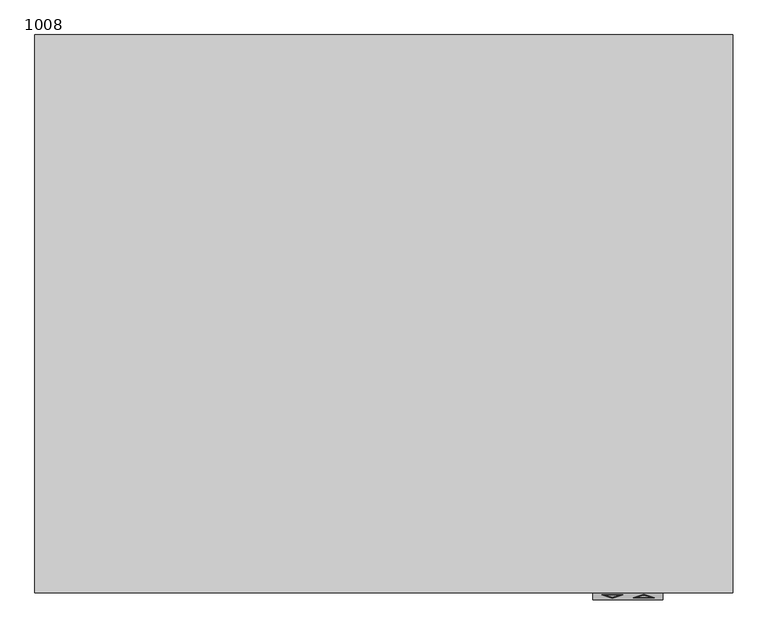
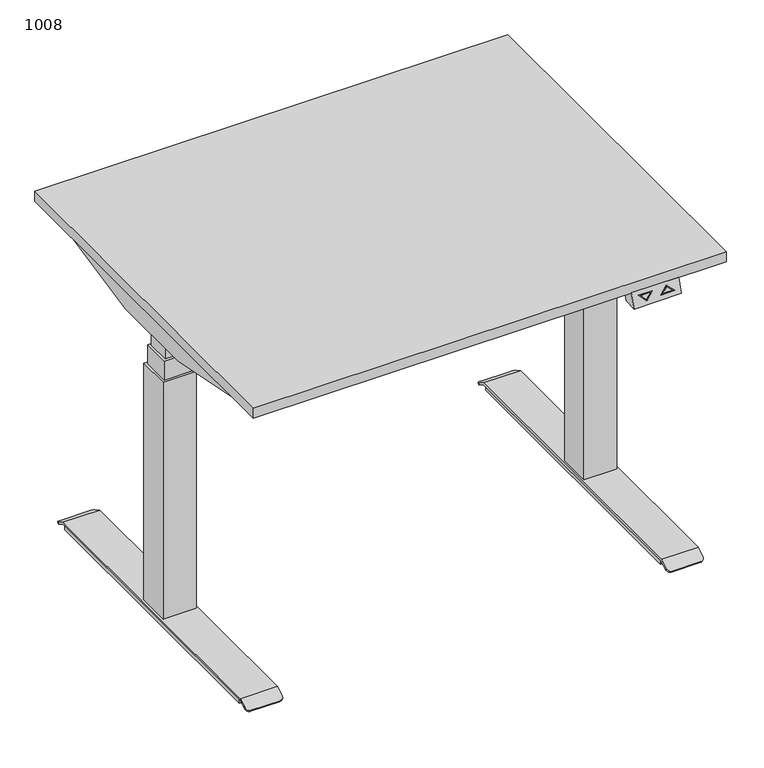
"""IFC4 building model written with IfcOpenShell, lengths in millimetres: furniture geometry, PINTA EQC : 1008."""

from ifc_helpers import new_model, si_unit, point, frame, frame_2d, origin, origin_with_axes, place, context, project, spatial, polyline, circle_curve, trimmed, segment, composite_curve, outline, extrude, faceted_brep, source, transform, mapped, element, save
from ifc_brep_helpers import plane_surface, cylinder_surface, advanced_brep


def furniture_1008_3f757aca(model_context):
    return source(origin(), model_context, "Body", "SolidModel", [
        faceted_brep([(300.0, -810.0, 668.0), (300.0, -780.0, 668.0), (400.0, -780.0, 668.0), (400.0, -810.0, 668.0), (300.0, -800.0, 698.0), (400.0, -800.0, 698.0), (400.0, -770.0, 698.0), (300.0, -770.0, 698.0), (312.5, -802.6491106, 690.0526681), (342.5, -802.6491106, 690.0526681), (327.5, -807.3925271, 675.8224186), (387.5, -806.9174824, 677.2475529), (357.5, -806.9174824, 677.2475529), (372.5, -802.1740659, 691.4778023), (327.5, -806.4980999, 678.5057002), (337.6715729, -803.2815662, 688.1553015), (317.3284271, -803.2815662, 688.1553015), (382.6715729, -806.2850268, 679.1449195), (372.5, -803.0684931, 688.7945208), (362.3284271, -806.2850268, 679.1449195), (342.5, -801.7004273, 689.7364403), (312.5, -801.7004273, 689.7364403), (327.5, -806.4438438, 675.5061908), (337.6715729, -802.3328829, 687.8390737), (327.5, -805.5494166, 678.1894724), (317.3284271, -802.3328829, 687.8390737), (357.5, -805.9687991, 676.9313251), (387.5, -805.9687991, 676.9313251), (372.5, -801.2253826, 691.1615746), (372.5, -802.1198098, 688.478293), (382.6715729, -805.3363436, 678.8286917), (362.3284271, -805.3363436, 678.8286917)], [[[0, 1, 2, 3]], [[4, 5, 6, 7]], [[1, 0, 4, 7]], [[3, 2, 6, 5]], [[0, 3, 5, 4], [8, 9, 10], [11, 12, 13]], [[14, 15, 16]], [[17, 18, 19]], [[2, 1, 7, 6]], [[20, 21, 22], [23, 24, 25]], [[26, 27, 28], [29, 30, 31]], [[21, 20, 9, 8]], [[22, 21, 8, 10]], [[20, 22, 10, 9]], [[27, 26, 12, 11]], [[28, 27, 11, 13]], [[26, 28, 13, 12]], [[24, 23, 15, 14]], [[25, 24, 14, 16]], [[23, 25, 16, 15]], [[30, 29, 18, 17]], [[31, 30, 17, 19]], [[29, 31, 19, 18]]]),
        extrude(outline(polyline([(-480.0, -319.7732113), (480.0, -319.7733158), (480.0, -339.7733158), (-480.0, -339.7732113), (-480.0, -319.7732113)])), frame((0.0, 0.0, 658.0), z_axis=(0.0, 0.0, 1.0), x_axis=(1.0, 0.0, 0.0)), (0.0, 0.0, 1.0), 40.0),
        extrude(outline(polyline([(-480.0, -459.7732114), (480.0, -459.7733158), (480.0, -479.7733158), (-480.0, -479.7732114), (-480.0, -459.7732114)])), frame((0.0, 0.0, 658.0), z_axis=(0.0, 0.0, 1.0), x_axis=(1.0, 0.0, 0.0)), (0.0, 0.0, 1.0), 40.0),
        extrude(outline(polyline([(-500.0, -800.0), (-500.0, 0.0), (500.0, 0.0), (500.0, -800.0), (-500.0, -800.0)])), frame((0.0, 0.0, 698.0), z_axis=(0.0, 0.0, 1.0), x_axis=(1.0, 0.0, 0.0)), (0.0, 0.0, 1.0), 22.0),
        advanced_brep(
        [(406.9772339, -720.0, 6.0), (406.9772339, -720.0, 16.0), (406.9772339, -80.0, 16.0), (406.9772339, -80.0, 6.0), (483.0227661, -80.0, 16.0), (483.0227661, -80.0, 6.0), (483.0227661, -720.0, 16.0), (483.0227661, -720.0, 6.0), (406.0, -75.0, 20.0), (406.0, -56.9800481, 9.908827), (406.0, -58.9344616, 6.4188029), (406.0, -76.0437422, 16.0), (406.0, -723.9562578, 16.0), (406.0, -741.0655384, 6.4188029), (406.0, -743.0199519, 9.908827), (406.0, -725.0, 20.0), (484.0, -76.0437422, 16.0), (484.0, -58.9344616, 6.4188029), (484.0, -56.9800481, 9.908827), (484.0, -75.0, 20.0), (484.0, -725.0, 20.0), (484.0, -743.0199519, 9.908827), (484.0, -741.0655384, 6.4188029), (484.0, -723.9562578, 16.0), (414.0, -750.0, 6.0), (476.0, -750.0, 6.0), (414.0, -748.0455865, 2.5099759), (476.0, -748.0455865, 2.5099759), (414.0, -51.9544135, 2.5099759), (476.0, -51.9544135, 2.5099759), (414.0, -50.0, 6.0), (476.0, -50.0, 6.0)],
        [
            (0, 1),
            (1, 2),
            (2, 3),
            (3, 0),
            (2, 4),
            (4, 5),
            (5, 3),
            (4, 6),
            (6, 7),
            (7, 5),
            (6, 1),
            (0, 7),
            (8, 9),
            (9, 10),
            (10, 11),
            (11, 12),
            (12, 13),
            (13, 14),
            (14, 15),
            (15, 8),
            (16, 17),
            (17, 18),
            (18, 19),
            (19, 20),
            (20, 21),
            (21, 22),
            (22, 23),
            (23, 16),
            (15, 20),
            (19, 8),
            (11, 16),
            (23, 12),
            (14, 24, circle_curve(frame((414.0, -743.0199519, 9.908827), z_axis=(0.0, -0.4886033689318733, 0.8725060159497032), x_axis=(0.0, 0.8725060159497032, 0.4886033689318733)), 8.0)),
            (24, 25),
            (25, 21, circle_curve(frame((476.0, -743.0199519, 9.908827), z_axis=(0.0, -0.4886033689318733, 0.8725060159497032), x_axis=(0.0, 0.8725060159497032, 0.4886033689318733)), 8.0)),
            (24, 26),
            (26, 27),
            (27, 25),
            (22, 27, circle_curve(frame((476.0, -741.0655384, 6.4188029), z_axis=(0.0, 0.4886033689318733, -0.8725060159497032), x_axis=(0.0, 0.8725060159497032, 0.4886033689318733)), 8.0)),
            (26, 13, circle_curve(frame((414.0, -741.0655384, 6.4188029), z_axis=(0.0, 0.4886033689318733, -0.8725060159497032), x_axis=(0.0, 0.8725060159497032, 0.4886033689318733)), 8.0)),
            (10, 28, circle_curve(frame((414.0, -58.9344616, 6.4188029), z_axis=(0.0, -0.4886033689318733, -0.8725060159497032), x_axis=(0.0, -0.8725060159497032, 0.4886033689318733)), 8.0)),
            (28, 29),
            (29, 17, circle_curve(frame((476.0, -58.9344616, 6.4188029), z_axis=(0.0, -0.4886033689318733, -0.8725060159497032), x_axis=(0.0, -0.8725060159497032, 0.4886033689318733)), 8.0)),
            (28, 30),
            (30, 31),
            (31, 29),
            (18, 31, circle_curve(frame((476.0, -56.9800481, 9.908827), z_axis=(0.0, 0.4886033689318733, 0.8725060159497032), x_axis=(0.0, -0.8725060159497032, 0.4886033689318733)), 8.0)),
            (30, 9, circle_curve(frame((414.0, -56.9800481, 9.908827), z_axis=(0.0, 0.4886033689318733, 0.8725060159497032), x_axis=(0.0, -0.8725060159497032, 0.4886033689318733)), 8.0)),
        ],
        [
            plane_surface(frame((406.9772339, -720.0, 16.0), z_axis=(-1.0, 0.0, 0.0), x_axis=(0.0, 0.0, -1.0))),
            plane_surface(frame((406.9772339, -80.0, 16.0), z_axis=(0.0, 1.0, 0.0), x_axis=(0.0, 0.0, -1.0))),
            plane_surface(frame((483.0227661, -80.0, 16.0), z_axis=(1.0, 0.0, 0.0), x_axis=(0.0, 0.0, -1.0))),
            plane_surface(frame((483.0227661, -720.0, 16.0), z_axis=(0.0, -1.0, 0.0), x_axis=(0.0, 0.0, -1.0))),
            plane_surface(frame((406.9772339, -723.4188232, 6.0), z_axis=(0.0, 0.0, -1.0), x_axis=(0.0, -1.0, 0.0))),
            plane_surface(frame((406.0, -400.0, 20.0), z_axis=(-1.0, 0.0, 0.0), x_axis=(0.0, -1.0, 0.0))),
            plane_surface(frame((484.0, -400.0, 20.0), z_axis=(1.0, 0.0, 0.0), x_axis=(0.0, 1.0, 0.0))),
            plane_surface(frame((406.0, -75.0, 20.0), z_axis=(0.0, 0.0, 1.0), x_axis=(1.0, 0.0, 0.0))),
            plane_surface(frame((406.0, -723.9562578, 16.0), z_axis=(0.0, 0.0, -1.0), x_axis=(1.0, 0.0, 0.0))),
            plane_surface(frame((406.0, -725.0, 20.0), z_axis=(0.0, -0.4886033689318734, 0.8725060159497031), x_axis=(1.0, 0.0, 0.0))),
            plane_surface(frame((406.0, -750.0, 6.0), z_axis=(0.0, -0.872506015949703, -0.4886033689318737), x_axis=(1.0, 0.0, 0.0))),
            plane_surface(frame((406.0, -748.0455865, 2.5099759), z_axis=(0.0, 0.4886033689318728, -0.8725060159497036), x_axis=(1.0, 0.0, 0.0))),
            plane_surface(frame((406.0, -76.0437422, 16.0), z_axis=(0.0, -0.4886033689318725, -0.8725060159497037), x_axis=(1.0, 0.0, 0.0))),
            plane_surface(frame((406.0, -51.9544135, 2.5099759), z_axis=(0.0, 0.8725060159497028, -0.48860336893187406), x_axis=(1.0, 0.0, 0.0))),
            plane_surface(frame((406.0, -50.0, 6.0), z_axis=(0.0, 0.48860336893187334, 0.8725060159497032), x_axis=(1.0, 0.0, 0.0))),
            cylinder_surface(frame((414.0, -743.0199519, 9.908827), z_axis=(0.0, -0.4886033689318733, 0.8725060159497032), x_axis=(0.0, 0.8725060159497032, 0.4886033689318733)), 8.0),
            cylinder_surface(frame((476.0, -743.0199519, 9.908827), z_axis=(0.0, -0.4886033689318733, 0.8725060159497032), x_axis=(0.0, 0.8725060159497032, 0.4886033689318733)), 8.0),
            cylinder_surface(frame((414.0, -56.9800481, 9.908827), z_axis=(0.0, 0.4886033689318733, 0.8725060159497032), x_axis=(0.0, -0.8725060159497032, 0.4886033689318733)), 8.0),
            cylinder_surface(frame((476.0, -56.9800481, 9.908827), z_axis=(0.0, 0.4886033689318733, 0.8725060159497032), x_axis=(0.0, -0.8725060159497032, 0.4886033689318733)), 8.0),
        ],
        [
            (0, [[1, 2, 3, 4]]),
            (1, [[-3, 5, 6, 7]]),
            (2, [[-6, 8, 9, 10]]),
            (3, [[-9, 11, -1, 12]]),
            (4, [[-4, -7, -10, -12]]),
            (5, [[13, 14, 15, 16, 17, 18, 19, 20]]),
            (6, [[21, 22, 23, 24, 25, 26, 27, 28]]),
            (7, [[29, -24, 30, -20]]),
            (8, [[31, -28, 32, -16], [-11, -8, -5, -2]]),
            (9, [[-19, 33, 34, 35, -25, -29]]),
            (10, [[36, 37, 38, -34]]),
            (11, [[-27, 39, -37, 40, -17, -32]]),
            (12, [[-15, 41, 42, 43, -21, -31]]),
            (13, [[44, 45, 46, -42]]),
            (14, [[-23, 47, -45, 48, -13, -30]]),
            (15, [[-40, -36, -33, -18]]),
            (16, [[-35, -38, -39, -26]]),
            (17, [[-48, -44, -41, -14]]),
            (18, [[-43, -46, -47, -22]]),
        ],
    ),
        faceted_brep([(279.4551307, -460.0, 698.0), (462.9996948, -460.0, 698.0), (462.9996948, -700.0, 698.0), (479.4551307, -700.0, 698.0), (483.0, -700.0, 698.0), (483.0, -100.0, 698.0), (479.4551307, -100.0, 698.0), (462.9996948, -100.0, 698.0), (462.9996948, -340.0, 698.0), (279.4551307, -340.0, 698.0), (279.4551307, -460.0, 635.2327881), (279.4551307, -340.0, 635.2327881), (479.4551307, -340.0, 635.2327881), (479.4551307, -303.8252348, 635.2327881), (483.0, -303.8252348, 635.2327881), (483.0, -496.1747652, 635.2327881), (479.4551307, -496.1747652, 635.2327881), (479.4551307, -460.0, 635.2327881), (462.9996948, -340.0, 694.9093018), (479.4551307, -340.0, 694.9093018), (479.4551307, -460.0, 694.9093018), (462.9996948, -460.0, 694.9093018), (479.4551307, -700.0, 694.9093018), (462.9996948, -700.0, 694.9093018), (479.4551307, -100.0, 694.9093018), (462.9996948, -100.0, 694.9093018), (479.4551307, -101.1249222, 694.9093018), (479.4551307, -698.8750778, 694.9093018), (479.4551307, -108.5505036, 674.5076845), (479.4551307, -691.4494964, 674.5076845), (483.0, -108.5505036, 674.5076845), (483.0, -691.4494964, 674.5076845)], [[[0, 1, 2, 3, 4, 5, 6, 7, 8, 9]], [[10, 11, 12, 13, 14, 15, 16, 17]], [[9, 11, 10, 0]], [[11, 9, 8, 18, 19, 12]], [[17, 20, 21, 1, 0, 10]], [[22, 3, 2, 23]], [[24, 25, 7, 6]], [[24, 26, 19, 18, 25]], [[23, 21, 20, 27, 22]], [[2, 1, 21, 23]], [[25, 18, 8, 7]], [[13, 12, 19, 26, 28]], [[29, 27, 20, 17, 16]], [[15, 14, 30, 5, 4, 31]], [[16, 15, 31, 29]], [[22, 27, 3]], [[6, 26, 24]], [[4, 3, 27, 29, 31]], [[28, 30, 14, 13]], [[30, 28, 26, 6, 5]]]),
        extrude(outline(composite_curve([segment(trimmed(circle_curve(frame_2d((445.0, -705.0)), 25.0), [point((470.0, -705.0))], [point((420.0, -705.0))], False, "CARTESIAN"), True, "CONTINUOUS"), segment(trimmed(circle_curve(frame_2d((445.0, -705.0)), 25.0), [point((420.0, -705.0))], [point((470.0, -705.0))], False, "CARTESIAN"), True, "CONTINUOUS")], self_intersect=False)), origin_with_axes(), (0.0, 0.0, 1.0), 6.0),
        extrude(outline(composite_curve([segment(trimmed(circle_curve(frame_2d((445.0, -95.0)), 25.0), [point((470.0, -95.0))], [point((420.0, -95.0))], False, "CARTESIAN"), True, "CONTINUOUS"), segment(trimmed(circle_curve(frame_2d((445.0, -95.0)), 25.0), [point((420.0, -95.0))], [point((470.0, -95.0))], False, "CARTESIAN"), True, "CONTINUOUS")], self_intersect=False)), origin_with_axes(), (0.0, 0.0, 1.0), 6.0),
        faceted_brep([(410.0, -365.0, 550.0), (410.0, -434.9621325, 550.0), (480.0, -434.9621325, 550.0), (480.0, -365.0, 550.0), (475.0, -370.0, 550.0), (475.0, -429.9621325, 550.0), (415.0, -429.9621325, 550.0), (415.0, -370.0, 550.0), (410.0, -365.0, 20.0), (480.0, -365.0, 20.0), (480.0, -434.9621325, 20.0), (410.0, -434.9621325, 20.0), (415.0, -370.0, 592.616394), (415.0, -429.9621325, 592.616394), (475.0, -429.9621325, 592.616394), (475.0, -370.0, 592.616394), (470.0, -375.0, 592.616394), (470.0, -424.9621325, 592.616394), (420.0, -424.9621325, 592.616394), (420.0, -375.0, 592.616394), (420.0, -375.0, 635.2327881), (420.0, -424.9621325, 635.2327881), (470.0, -424.9621325, 635.2327881), (470.0, -375.0, 635.2327881)], [[[0, 1, 2, 3], [4, 5, 6, 7]], [[8, 9, 10, 11]], [[3, 9, 8, 0]], [[2, 10, 9, 3]], [[1, 11, 10, 2]], [[0, 8, 11, 1]], [[12, 13, 14, 15], [16, 17, 18, 19]], [[15, 4, 7, 12]], [[14, 5, 4, 15]], [[13, 6, 5, 14]], [[12, 7, 6, 13]], [[20, 21, 22, 23]], [[23, 16, 19, 20]], [[22, 17, 16, 23]], [[21, 18, 17, 22]], [[20, 19, 18, 21]]]),
        advanced_brep(
        [(-406.9772339, -720.0, 6.0), (-406.9772339, -80.0, 6.0), (-406.9772339, -80.0, 16.0), (-406.9772339, -720.0, 16.0), (-483.0227661, -80.0, 6.0), (-483.0227661, -80.0, 16.0), (-483.0227661, -720.0, 6.0), (-483.0227661, -720.0, 16.0), (-406.0, -75.0, 20.0), (-406.0, -725.0, 20.0), (-406.0, -743.0199519, 9.908827), (-406.0, -741.0655384, 6.4188029), (-406.0, -723.9562578, 16.0), (-406.0, -76.0437422, 16.0), (-406.0, -58.9344616, 6.4188029), (-406.0, -56.9800481, 9.908827), (-484.0, -76.0437422, 16.0), (-484.0, -723.9562578, 16.0), (-484.0, -741.0655384, 6.4188029), (-484.0, -743.0199519, 9.908827), (-484.0, -725.0, 20.0), (-484.0, -75.0, 20.0), (-484.0, -56.9800481, 9.908827), (-484.0, -58.9344616, 6.4188029), (-476.0, -750.0, 6.0), (-414.0, -750.0, 6.0), (-476.0, -748.0455865, 2.5099759), (-414.0, -748.0455865, 2.5099759), (-476.0, -51.9544135, 2.5099759), (-414.0, -51.9544135, 2.5099759), (-476.0, -50.0, 6.0), (-414.0, -50.0, 6.0)],
        [
            (0, 1),
            (1, 2),
            (2, 3),
            (3, 0),
            (1, 4),
            (4, 5),
            (5, 2),
            (4, 6),
            (6, 7),
            (7, 5),
            (6, 0),
            (3, 7),
            (8, 9),
            (9, 10),
            (10, 11),
            (11, 12),
            (12, 13),
            (13, 14),
            (14, 15),
            (15, 8),
            (16, 17),
            (17, 18),
            (18, 19),
            (19, 20),
            (20, 21),
            (21, 22),
            (22, 23),
            (23, 16),
            (8, 21),
            (20, 9),
            (12, 17),
            (16, 13),
            (19, 24, circle_curve(frame((-476.0, -743.0199519, 9.908827), z_axis=(0.0, -0.4886033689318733, 0.8725060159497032), x_axis=(0.0, 0.8725060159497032, 0.4886033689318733)), 8.0)),
            (24, 25),
            (25, 10, circle_curve(frame((-414.0, -743.0199519, 9.908827), z_axis=(0.0, -0.4886033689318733, 0.8725060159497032), x_axis=(0.0, 0.8725060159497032, 0.4886033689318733)), 8.0)),
            (24, 26),
            (26, 27),
            (27, 25),
            (11, 27, circle_curve(frame((-414.0, -741.0655384, 6.4188029), z_axis=(0.0, 0.4886033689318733, -0.8725060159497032), x_axis=(0.0, 0.8725060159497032, 0.4886033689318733)), 8.0)),
            (26, 18, circle_curve(frame((-476.0, -741.0655384, 6.4188029), z_axis=(0.0, 0.4886033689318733, -0.8725060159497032), x_axis=(0.0, 0.8725060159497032, 0.4886033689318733)), 8.0)),
            (23, 28, circle_curve(frame((-476.0, -58.9344616, 6.4188029), z_axis=(0.0, -0.4886033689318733, -0.8725060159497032), x_axis=(0.0, -0.8725060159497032, 0.4886033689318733)), 8.0)),
            (28, 29),
            (29, 14, circle_curve(frame((-414.0, -58.9344616, 6.4188029), z_axis=(0.0, -0.4886033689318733, -0.8725060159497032), x_axis=(0.0, -0.8725060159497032, 0.4886033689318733)), 8.0)),
            (28, 30),
            (30, 31),
            (31, 29),
            (15, 31, circle_curve(frame((-414.0, -56.9800481, 9.908827), z_axis=(0.0, 0.4886033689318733, 0.8725060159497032), x_axis=(0.0, -0.8725060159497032, 0.4886033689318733)), 8.0)),
            (30, 22, circle_curve(frame((-476.0, -56.9800481, 9.908827), z_axis=(0.0, 0.4886033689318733, 0.8725060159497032), x_axis=(0.0, -0.8725060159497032, 0.4886033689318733)), 8.0)),
        ],
        [
            plane_surface(frame((-406.9772339, -720.0, 16.0), z_axis=(1.0, 0.0, 0.0), x_axis=(0.0, 0.0, -1.0))),
            plane_surface(frame((-406.9772339, -80.0, 16.0), z_axis=(0.0, 1.0, 0.0), x_axis=(0.0, 0.0, -1.0))),
            plane_surface(frame((-483.0227661, -80.0, 16.0), z_axis=(-1.0, 0.0, 0.0), x_axis=(0.0, 0.0, -1.0))),
            plane_surface(frame((-483.0227661, -720.0, 16.0), z_axis=(0.0, -1.0, 0.0), x_axis=(0.0, 0.0, -1.0))),
            plane_surface(frame((-406.9772339, -723.4188232, 6.0), z_axis=(0.0, 0.0, -1.0), x_axis=(0.0, -1.0, 0.0))),
            plane_surface(frame((-406.0, -400.0, 20.0), z_axis=(1.0, 0.0, 0.0), x_axis=(0.0, -1.0, 0.0))),
            plane_surface(frame((-484.0, -400.0, 20.0), z_axis=(-1.0, 0.0, 0.0), x_axis=(0.0, 1.0, 0.0))),
            plane_surface(frame((-406.0, -75.0, 20.0), z_axis=(0.0, 0.0, 1.0), x_axis=(-1.0, 0.0, 0.0))),
            plane_surface(frame((-406.0, -723.9562578, 16.0), z_axis=(0.0, 0.0, -1.0), x_axis=(-1.0, 0.0, 0.0))),
            plane_surface(frame((-406.0, -725.0, 20.0), z_axis=(0.0, -0.4886033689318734, 0.8725060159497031), x_axis=(-1.0, 0.0, 0.0))),
            plane_surface(frame((-406.0, -750.0, 6.0), z_axis=(0.0, -0.872506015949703, -0.4886033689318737), x_axis=(-1.0, 0.0, 0.0))),
            plane_surface(frame((-406.0, -748.0455865, 2.5099759), z_axis=(0.0, 0.4886033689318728, -0.8725060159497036), x_axis=(-1.0, 0.0, 0.0))),
            plane_surface(frame((-406.0, -76.0437422, 16.0), z_axis=(0.0, -0.4886033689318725, -0.8725060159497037), x_axis=(-1.0, 0.0, 0.0))),
            plane_surface(frame((-406.0, -51.9544135, 2.5099759), z_axis=(0.0, 0.8725060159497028, -0.48860336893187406), x_axis=(-1.0, 0.0, 0.0))),
            plane_surface(frame((-406.0, -50.0, 6.0), z_axis=(0.0, 0.48860336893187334, 0.8725060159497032), x_axis=(-1.0, 0.0, 0.0))),
            cylinder_surface(frame((-414.0, -743.0199519, 9.908827), z_axis=(0.0, -0.4886033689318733, 0.8725060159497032), x_axis=(0.0, 0.8725060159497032, 0.4886033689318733)), 8.0),
            cylinder_surface(frame((-476.0, -743.0199519, 9.908827), z_axis=(0.0, -0.4886033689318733, 0.8725060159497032), x_axis=(0.0, 0.8725060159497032, 0.4886033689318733)), 8.0),
            cylinder_surface(frame((-414.0, -56.9800481, 9.908827), z_axis=(0.0, 0.4886033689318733, 0.8725060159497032), x_axis=(0.0, -0.8725060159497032, 0.4886033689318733)), 8.0),
            cylinder_surface(frame((-476.0, -56.9800481, 9.908827), z_axis=(0.0, 0.4886033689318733, 0.8725060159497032), x_axis=(0.0, -0.8725060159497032, 0.4886033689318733)), 8.0),
        ],
        [
            (0, [[1, 2, 3, 4]]),
            (1, [[5, 6, 7, -2]]),
            (2, [[8, 9, 10, -6]]),
            (3, [[11, -4, 12, -9]]),
            (4, [[-11, -8, -5, -1]]),
            (5, [[13, 14, 15, 16, 17, 18, 19, 20]]),
            (6, [[21, 22, 23, 24, 25, 26, 27, 28]]),
            (7, [[-13, 29, -25, 30]]),
            (8, [[-17, 31, -21, 32], [-3, -7, -10, -12]]),
            (9, [[-30, -24, 33, 34, 35, -14]]),
            (10, [[-34, 36, 37, 38]]),
            (11, [[-31, -16, 39, -37, 40, -22]]),
            (12, [[-32, -28, 41, 42, 43, -18]]),
            (13, [[-42, 44, 45, 46]]),
            (14, [[-29, -20, 47, -45, 48, -26]]),
            (15, [[-15, -35, -38, -39]]),
            (16, [[-23, -40, -36, -33]]),
            (17, [[-19, -43, -46, -47]]),
            (18, [[-27, -48, -44, -41]]),
        ],
    ),
        faceted_brep([(-279.4551307, -460.0, 698.0), (-279.4551307, -340.0, 698.0), (-462.9996948, -340.0, 698.0), (-462.9996948, -100.0, 698.0), (-479.4551307, -100.0, 698.0), (-483.0, -100.0, 698.0), (-483.0, -700.0, 698.0), (-479.4551307, -700.0, 698.0), (-462.9996948, -700.0, 698.0), (-462.9996948, -460.0, 698.0), (-279.4551307, -460.0, 635.2327881), (-479.4551307, -460.0, 635.2327881), (-479.4551307, -496.1747652, 635.2327881), (-483.0, -496.1747652, 635.2327881), (-483.0, -303.8252348, 635.2327881), (-479.4551307, -303.8252348, 635.2327881), (-479.4551307, -340.0, 635.2327881), (-279.4551307, -340.0, 635.2327881), (-479.4551307, -340.0, 694.9093018), (-462.9996948, -340.0, 694.9093018), (-462.9996948, -460.0, 694.9093018), (-479.4551307, -460.0, 694.9093018), (-479.4551307, -700.0, 694.9093018), (-462.9996948, -700.0, 694.9093018), (-479.4551307, -100.0, 694.9093018), (-462.9996948, -100.0, 694.9093018), (-479.4551307, -698.8750778, 694.9093018), (-479.4551307, -101.1249222, 694.9093018), (-479.4551307, -691.4494964, 674.5076845), (-479.4551307, -108.5505036, 674.5076845), (-483.0, -691.4494964, 674.5076845), (-483.0, -108.5505036, 674.5076845)], [[[0, 1, 2, 3, 4, 5, 6, 7, 8, 9]], [[10, 11, 12, 13, 14, 15, 16, 17]], [[1, 0, 10, 17]], [[17, 16, 18, 19, 2, 1]], [[11, 10, 0, 9, 20, 21]], [[22, 23, 8, 7]], [[24, 4, 3, 25]], [[23, 22, 26, 21, 20]], [[24, 25, 19, 18, 27]], [[8, 23, 20, 9]], [[25, 3, 2, 19]], [[28, 12, 11, 21, 26]], [[15, 29, 27, 18, 16]], [[13, 30, 6, 5, 31, 14]], [[12, 28, 30, 13]], [[22, 7, 26]], [[4, 24, 27]], [[6, 30, 28, 26, 7]], [[29, 15, 14, 31]], [[31, 5, 4, 27, 29]]]),
        extrude(outline(composite_curve([segment(trimmed(circle_curve(frame_2d((-445.0, -705.0)), 25.0), [point((-470.0, -705.0))], [point((-420.0, -705.0))], False, "CARTESIAN"), True, "CONTINUOUS"), segment(trimmed(circle_curve(frame_2d((-445.0, -705.0)), 25.0), [point((-420.0, -705.0))], [point((-470.0, -705.0))], False, "CARTESIAN"), True, "CONTINUOUS")], self_intersect=False)), origin_with_axes(), (0.0, 0.0, 1.0), 6.0),
        extrude(outline(composite_curve([segment(trimmed(circle_curve(frame_2d((-445.0, -95.0)), 25.0), [point((-470.0, -95.0))], [point((-420.0, -95.0))], False, "CARTESIAN"), True, "CONTINUOUS"), segment(trimmed(circle_curve(frame_2d((-445.0, -95.0)), 25.0), [point((-420.0, -95.0))], [point((-470.0, -95.0))], False, "CARTESIAN"), True, "CONTINUOUS")], self_intersect=False)), origin_with_axes(), (0.0, 0.0, 1.0), 6.0),
        faceted_brep([(-410.0, -365.0, 550.0), (-480.0, -365.0, 550.0), (-480.0, -434.9621325, 550.0), (-410.0, -434.9621325, 550.0), (-475.0, -370.0, 550.0), (-415.0, -370.0, 550.0), (-415.0, -429.9621325, 550.0), (-475.0, -429.9621325, 550.0), (-410.0, -365.0, 20.0), (-410.0, -434.9621325, 20.0), (-480.0, -434.9621325, 20.0), (-480.0, -365.0, 20.0), (-415.0, -370.0, 592.616394), (-475.0, -370.0, 592.616394), (-475.0, -429.9621325, 592.616394), (-415.0, -429.9621325, 592.616394), (-470.0, -375.0, 592.616394), (-420.0, -375.0, 592.616394), (-420.0, -424.9621325, 592.616394), (-470.0, -424.9621325, 592.616394), (-420.0, -375.0, 635.2327881), (-470.0, -375.0, 635.2327881), (-470.0, -424.9621325, 635.2327881), (-420.0, -424.9621325, 635.2327881)], [[[0, 1, 2, 3], [4, 5, 6, 7]], [[8, 9, 10, 11]], [[1, 0, 8, 11]], [[2, 1, 11, 10]], [[3, 2, 10, 9]], [[0, 3, 9, 8]], [[12, 13, 14, 15], [16, 17, 18, 19]], [[13, 12, 5, 4]], [[14, 13, 4, 7]], [[15, 14, 7, 6]], [[12, 15, 6, 5]], [[20, 21, 22, 23]], [[21, 20, 17, 16]], [[22, 21, 16, 19]], [[23, 22, 19, 18]], [[20, 23, 18, 17]]]),
    ])


if __name__ == "__main__":
    model = new_model("IFC4")
    model_context = context("Model", 3, world=origin())
    ifc_project = project(units=[si_unit("LENGTHUNIT", "METRE", prefix="MILLI")], contexts=[model_context])
    site = spatial("IfcSite", under=ifc_project)
    building = spatial("IfcBuilding", under=site)
    placement = place(None, origin())
    furniture_1008_shape = furniture_1008_3f757aca(model_context)
    element("IfcFurniture", 1, ObjectType="PINTA EQC : 1008", at=placement, inside=building, context=model_context, shape_type="MappedRepresentation", body=[
        mapped(furniture_1008_shape, transform((0.0, 0.0, 0.0), x_axis=(1.0, 0.0, 0.0), y_axis=(0.0, 1.0, 0.0), z_axis=(0.0, 0.0, 1.0))),
    ])
    save(model, "model.ifc")
